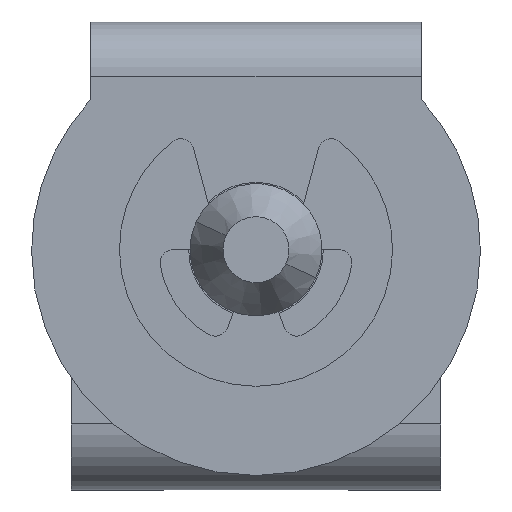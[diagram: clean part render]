
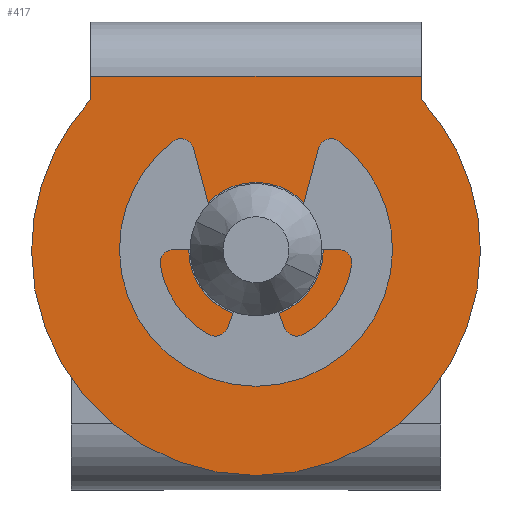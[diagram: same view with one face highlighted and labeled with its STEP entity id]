
A CAD part, front view. The second image highlights one B-rep face of the part: STEP entity #417.
In plain terms, the highlighted planar face has unit normal (0, -1, 0).
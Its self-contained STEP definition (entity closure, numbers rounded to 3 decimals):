
#295 = EDGE_CURVE ( 'NONE', #296, #297, #1654, .T. ) ;
#296 = VERTEX_POINT ( 'NONE', #1649 ) ;
#297 = VERTEX_POINT ( 'NONE', #1648 ) ;
#312 = EDGE_CURVE ( 'NONE', #313, #314, #1683, .T. ) ;
#313 = VERTEX_POINT ( 'NONE', #1679 ) ;
#314 = VERTEX_POINT ( 'NONE', #1678 ) ;
#364 = EDGE_CURVE ( 'NONE', #365, #296, #1782, .T. ) ;
#365 = VERTEX_POINT ( 'NONE', #1777 ) ;
#381 = VERTEX_POINT ( 'NONE', #1814 ) ;
#395 = VERTEX_POINT ( 'NONE', #1854 ) ;
#406 = ORIENTED_EDGE ( 'NONE', *, *, #295, .T. ) ;
#417 = ADVANCED_FACE ( 'NONE', ( #1884, #1883 ), #1882, .T. ) ;
#418 = EDGE_LOOP ( 'NONE', ( #419, #420 ) ) ;
#419 = ORIENTED_EDGE ( 'NONE', *, *, #312, .F. ) ;
#420 = ORIENTED_EDGE ( 'NONE', *, *, #439, .F. ) ;
#421 = EDGE_LOOP ( 'NONE', ( #422, #424, #481, #483, #484, #406 ) ) ;
#422 = ORIENTED_EDGE ( 'NONE', *, *, #423, .T. ) ;
#423 = EDGE_CURVE ( 'NONE', #297, #395, #1877, .T. ) ;
#424 = ORIENTED_EDGE ( 'NONE', *, *, #442, .T. ) ;
#428 = EDGE_CURVE ( 'NONE', #429, #365, #1872, .T. ) ;
#429 = VERTEX_POINT ( 'NONE', #1873 ) ;
#439 = EDGE_CURVE ( 'NONE', #314, #313, #1915, .T. ) ;
#442 = EDGE_CURVE ( 'NONE', #395, #381, #1911, .T. ) ;
#481 = ORIENTED_EDGE ( 'NONE', *, *, #482, .T. ) ;
#482 = EDGE_CURVE ( 'NONE', #381, #429, #1989, .T. ) ;
#483 = ORIENTED_EDGE ( 'NONE', *, *, #428, .T. ) ;
#484 = ORIENTED_EDGE ( 'NONE', *, *, #364, .T. ) ;
#1648 = CARTESIAN_POINT ( 'NONE',  ( 6.25, -22.925, -0.914 ) ) ;
#1649 = CARTESIAN_POINT ( 'NONE',  ( 8.5, -22.925, -6.675 ) ) ;
#1650 = DIRECTION ( 'NONE',  ( -1., 0., 0. ) ) ;
#1651 = DIRECTION ( 'NONE',  ( 0., -1., 0. ) ) ;
#1652 = CARTESIAN_POINT ( 'NONE',  ( 0., -22.925, -6.675 ) ) ;
#1653 = AXIS2_PLACEMENT_3D ( 'NONE', #1652, #1651, #1650 ) ;
#1654 = CIRCLE ( 'NONE', #1653, 8.5 ) ;
#1678 = CARTESIAN_POINT ( 'NONE',  ( 2.55, -22.925, -6.625 ) ) ;
#1679 = CARTESIAN_POINT ( 'NONE',  ( -2.55, -22.925, -6.625 ) ) ;
#1680 = DIRECTION ( 'NONE',  ( -1., 0., 0. ) ) ;
#1681 = DIRECTION ( 'NONE',  ( 0., -1., 0. ) ) ;
#1682 = AXIS2_PLACEMENT_3D ( 'NONE', #1687, #1681, #1680 ) ;
#1683 = CIRCLE ( 'NONE', #1682, 2.55 ) ;
#1687 = CARTESIAN_POINT ( 'NONE',  ( 0., -22.925, -6.625 ) ) ;
#1777 = CARTESIAN_POINT ( 'NONE',  ( -8.5, -22.925, -6.675 ) ) ;
#1778 = DIRECTION ( 'NONE',  ( -1., 0., 0. ) ) ;
#1779 = DIRECTION ( 'NONE',  ( 0., -1., 0. ) ) ;
#1780 = CARTESIAN_POINT ( 'NONE',  ( 0., -22.925, -6.675 ) ) ;
#1781 = AXIS2_PLACEMENT_3D ( 'NONE', #1780, #1779, #1778 ) ;
#1782 = CIRCLE ( 'NONE', #1781, 8.5 ) ;
#1814 = CARTESIAN_POINT ( 'NONE',  ( -6.25, -22.925, -0.05 ) ) ;
#1854 = CARTESIAN_POINT ( 'NONE',  ( 6.25, -22.925, -0.05 ) ) ;
#1868 = DIRECTION ( 'NONE',  ( -1., 0., 0. ) ) ;
#1869 = DIRECTION ( 'NONE',  ( 0., -1., 0. ) ) ;
#1870 = CARTESIAN_POINT ( 'NONE',  ( 0., -22.925, -6.675 ) ) ;
#1871 = AXIS2_PLACEMENT_3D ( 'NONE', #1870, #1869, #1868 ) ;
#1872 = CIRCLE ( 'NONE', #1871, 8.5 ) ;
#1873 = CARTESIAN_POINT ( 'NONE',  ( -6.25, -22.925, -0.914 ) ) ;
#1874 = DIRECTION ( 'NONE',  ( 0., 0., 1. ) ) ;
#1875 = VECTOR ( 'NONE', #1874, 1000. ) ;
#1876 = CARTESIAN_POINT ( 'NONE',  ( 6.25, -22.925, 45.864 ) ) ;
#1877 = LINE ( 'NONE', #1876, #1875 ) ;
#1878 = DIRECTION ( 'NONE',  ( 1., 0., 0. ) ) ;
#1879 = DIRECTION ( 'NONE',  ( 0., -1., 0. ) ) ;
#1880 = CARTESIAN_POINT ( 'NONE',  ( 0., -22.925, 51.625 ) ) ;
#1881 = AXIS2_PLACEMENT_3D ( 'NONE', #1880, #1879, #1878 ) ;
#1882 = PLANE ( 'NONE',  #1881 ) ;
#1883 = FACE_OUTER_BOUND ( 'NONE', #421, .T. ) ;
#1884 = FACE_BOUND ( 'NONE', #418, .T. ) ;
#1908 = DIRECTION ( 'NONE',  ( -1., 0., 0. ) ) ;
#1909 = VECTOR ( 'NONE', #1908, 1000. ) ;
#1910 = CARTESIAN_POINT ( 'NONE',  ( 0., -22.925, -0.05 ) ) ;
#1911 = LINE ( 'NONE', #1910, #1909 ) ;
#1912 = DIRECTION ( 'NONE',  ( -1., 0., 0. ) ) ;
#1913 = DIRECTION ( 'NONE',  ( 0., -1., 0. ) ) ;
#1914 = AXIS2_PLACEMENT_3D ( 'NONE', #1920, #1913, #1912 ) ;
#1915 = CIRCLE ( 'NONE', #1914, 2.55 ) ;
#1920 = CARTESIAN_POINT ( 'NONE',  ( 0., -22.925, -6.625 ) ) ;
#1986 = DIRECTION ( 'NONE',  ( 0., 0., -1. ) ) ;
#1987 = VECTOR ( 'NONE', #1986, 1000. ) ;
#1988 = CARTESIAN_POINT ( 'NONE',  ( -6.25, -22.925, 45.864 ) ) ;
#1989 = LINE ( 'NONE', #1988, #1987 ) ;
